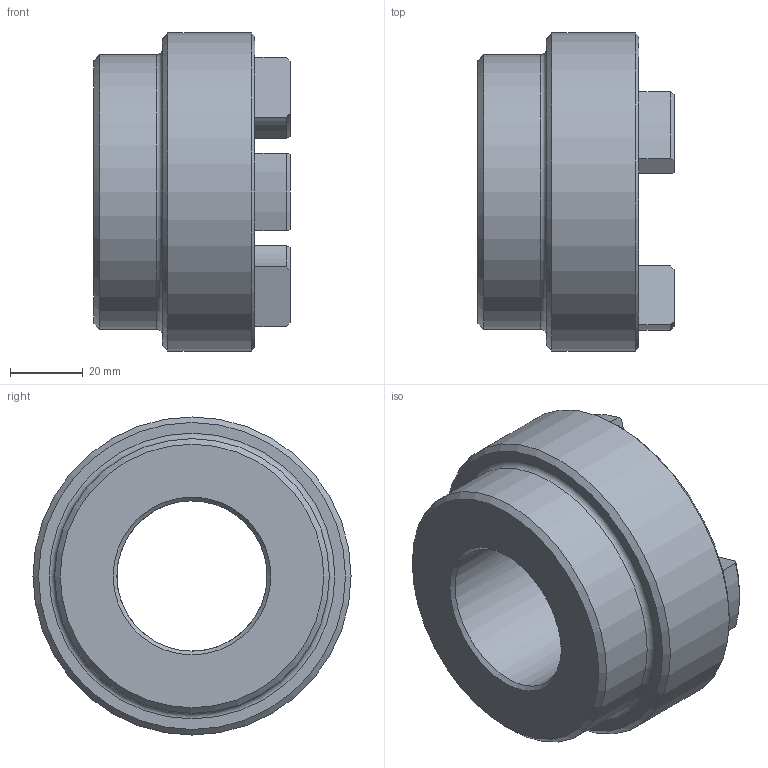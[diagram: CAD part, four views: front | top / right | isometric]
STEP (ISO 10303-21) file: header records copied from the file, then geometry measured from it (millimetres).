
FILE_DESCRIPTION (( 'STEP AP203' ), '1' );
FILE_NAME ('RC3.step', '2024-07-24T12:53:21', ( 'Adlan' ), ( '' ), 'SwSTEP 2.0', 'SolidWorks 2013', '' );
FILE_SCHEMA (( 'CONFIG_CONTROL_DESIGN' ));
Length unit declared in the file: inch
Products named in the file (1): RC3
Bounding box: 53.85 x 87.38 x 87.38 mm (x, y, z)
Volume: 152250.6 mm3; surface area: 29661.2 mm2
Topology: 1 solids, 1 shells, 62 faces, 155 edges, 96 vertices
Faces by surface type: cylinder 24, plane 15, torus 13, cone 10
Full cylindrical faces by diameter (mm): 41.288 x1, 75.438 x1, 87.376 x1
Entity records: 1929 total; most frequent: CARTESIAN_POINT 374, DIRECTION 332, ORIENTED_EDGE 290, EDGE_CURVE 145, AXIS2_PLACEMENT_3D 136, VERTEX_POINT 94, EDGE_LOOP 73, CIRCLE 73
